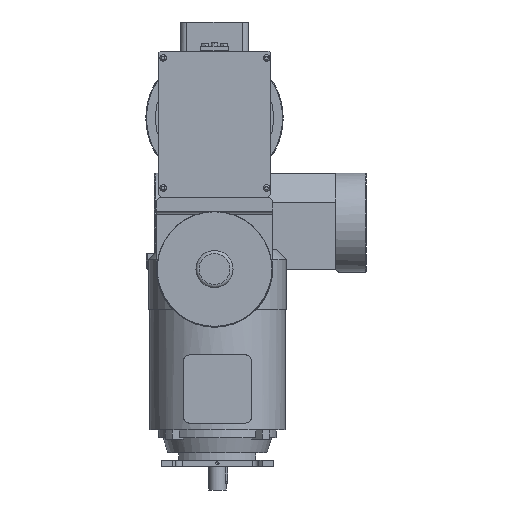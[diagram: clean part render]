
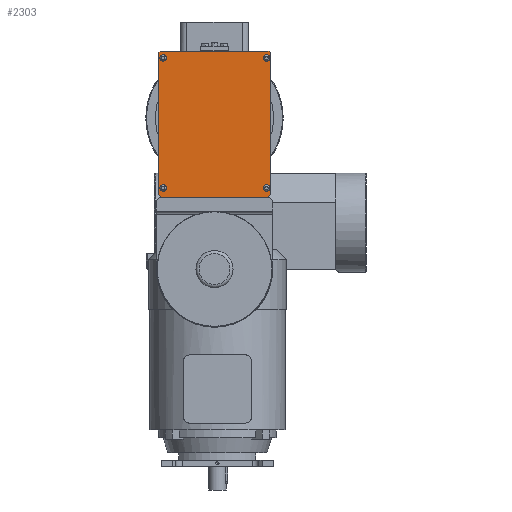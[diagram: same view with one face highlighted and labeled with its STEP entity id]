
A CAD part, front view. The second image highlights one B-rep face of the part: STEP entity #2303.
In plain terms, the highlighted planar face has unit normal (0, -1, 0) as drawn and (0, 0, 1) by its records, which use the part's own axes.
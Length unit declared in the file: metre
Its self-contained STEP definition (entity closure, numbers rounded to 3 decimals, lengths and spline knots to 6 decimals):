
#2303 = ADVANCED_FACE( '', ( #3864 ), #3865, .T. );
#3864 = FACE_OUTER_BOUND( '', #5874, .T. );
#3865 = PLANE( '', #5875 );
#5874 = EDGE_LOOP( '', ( #10299, #10300, #10301, #10302, #10303, #10304, #10305, #10306 ) );
#5875 = AXIS2_PLACEMENT_3D( '', #10307, #10308, #10309 );
#10299 = ORIENTED_EDGE( '', *, *, #12389, .F. );
#10300 = ORIENTED_EDGE( '', *, *, #12398, .F. );
#10301 = ORIENTED_EDGE( '', *, *, #12409, .F. );
#10302 = ORIENTED_EDGE( '', *, *, #12411, .F. );
#10303 = ORIENTED_EDGE( '', *, *, #12404, .F. );
#10304 = ORIENTED_EDGE( '', *, *, #12408, .F. );
#10305 = ORIENTED_EDGE( '', *, *, #12412, .F. );
#10306 = ORIENTED_EDGE( '', *, *, #12393, .F. );
#10307 = CARTESIAN_POINT( '', ( -0.0005, 0.0905, 0.006 ) );
#10308 = DIRECTION( '', ( 0., 0., 1. ) );
#10309 = DIRECTION( '', ( 1., 0., 0. ) );
#12389 = EDGE_CURVE( '', #14463, #14464, #14465, .T. );
#12393 = EDGE_CURVE( '', #14464, #14471, #14472, .T. );
#12398 = EDGE_CURVE( '', #14478, #14463, #14480, .T. );
#12404 = EDGE_CURVE( '', #14490, #14491, #14492, .T. );
#12408 = EDGE_CURVE( '', #14495, #14490, #14497, .T. );
#12409 = EDGE_CURVE( '', #14498, #14478, #14499, .T. );
#12411 = EDGE_CURVE( '', #14491, #14498, #14501, .T. );
#12412 = EDGE_CURVE( '', #14471, #14495, #14502, .T. );
#14463 = VERTEX_POINT( '', #18271 );
#14464 = VERTEX_POINT( '', #18272 );
#14465 = LINE( '', #18273, #18274 );
#14471 = VERTEX_POINT( '', #18283 );
#14472 = LINE( '', #18284, #18285 );
#14478 = VERTEX_POINT( '', #18294 );
#14480 = LINE( '', #18297, #18298 );
#14490 = VERTEX_POINT( '', #18313 );
#14491 = VERTEX_POINT( '', #18314 );
#14492 = LINE( '', #18315, #18316 );
#14495 = VERTEX_POINT( '', #18321 );
#14497 = LINE( '', #18324, #18325 );
#14498 = VERTEX_POINT( '', #18326 );
#14499 = LINE( '', #18327, #18328 );
#14501 = LINE( '', #18331, #18332 );
#14502 = LINE( '', #18333, #18334 );
#18271 = CARTESIAN_POINT( '', ( 0.0875, 0.2085, 0.006 ) );
#18272 = CARTESIAN_POINT( '', ( 0.0895, 0.2065, 0.006 ) );
#18273 = CARTESIAN_POINT( '', ( 0.0955, 0.2005, 0.006 ) );
#18274 = VECTOR( '', #20685, 1. );
#18283 = CARTESIAN_POINT( '', ( 0.0895, -0.0225, 0.006 ) );
#18284 = CARTESIAN_POINT( '', ( 0.0895, -0.0275, 0.006 ) );
#18285 = VECTOR( '', #20689, 1. );
#18294 = CARTESIAN_POINT( '', ( -0.0885, 0.2085, 0.006 ) );
#18297 = CARTESIAN_POINT( '', ( 0.0895, 0.2085, 0.006 ) );
#18298 = VECTOR( '', #20694, 1. );
#18313 = CARTESIAN_POINT( '', ( -0.0855, -0.0275, 0.006 ) );
#18314 = CARTESIAN_POINT( '', ( -0.0905, -0.0225, 0.006 ) );
#18315 = CARTESIAN_POINT( '', ( -0.095, -0.018, 0.006 ) );
#18316 = VECTOR( '', #20700, 1. );
#18321 = CARTESIAN_POINT( '', ( 0.0845, -0.0275, 0.006 ) );
#18324 = CARTESIAN_POINT( '', ( -0.0905, -0.0275, 0.006 ) );
#18325 = VECTOR( '', #20704, 1. );
#18326 = CARTESIAN_POINT( '', ( -0.0905, 0.2065, 0.006 ) );
#18327 = CARTESIAN_POINT( '', ( -0.0965, 0.2005, 0.006 ) );
#18328 = VECTOR( '', #20705, 1. );
#18331 = CARTESIAN_POINT( '', ( -0.0905, 0.2085, 0.006 ) );
#18332 = VECTOR( '', #20707, 1. );
#18333 = CARTESIAN_POINT( '', ( 0.094, -0.018, 0.006 ) );
#18334 = VECTOR( '', #20708, 1. );
#20685 = DIRECTION( '', ( 0.707, -0.707, 0. ) );
#20689 = DIRECTION( '', ( 0., -1., 0. ) );
#20694 = DIRECTION( '', ( 1., 0., 0. ) );
#20700 = DIRECTION( '', ( -0.707, 0.707, 0. ) );
#20704 = DIRECTION( '', ( -1., 0., 0. ) );
#20705 = DIRECTION( '', ( 0.707, 0.707, 0. ) );
#20707 = DIRECTION( '', ( 0., 1., 0. ) );
#20708 = DIRECTION( '', ( -0.707, -0.707, 0. ) );
